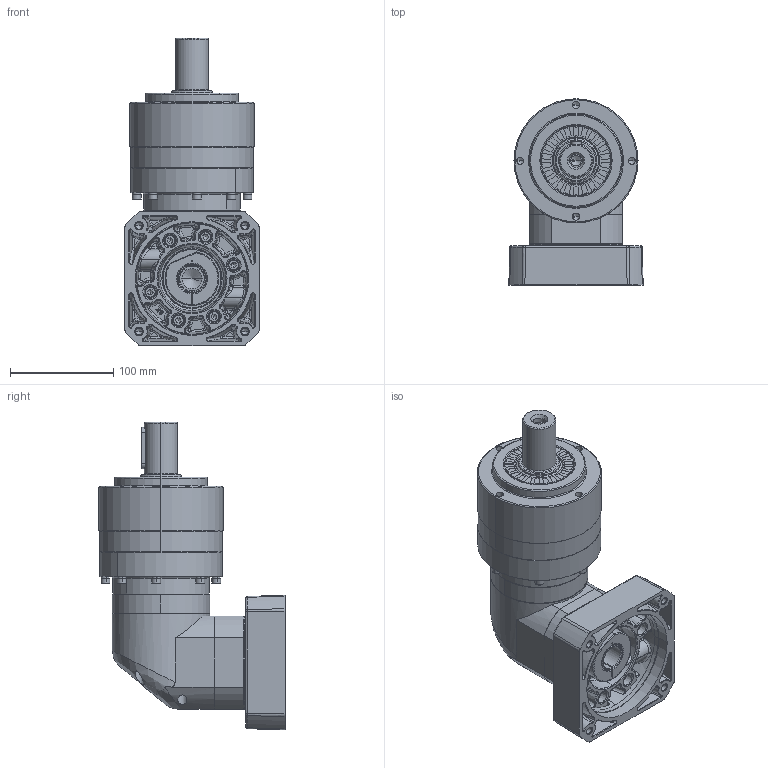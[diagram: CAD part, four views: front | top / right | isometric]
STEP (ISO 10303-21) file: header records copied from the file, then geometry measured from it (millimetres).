
FILE_DESCRIPTION (( 'STEP AP214' ), '1' );
FILE_NAME ('VRL120-L2-S2-P1 24-110-145-M8-59.STEP', '2025-02-14T08:13:38', ( '微软用户' ), ( '微软中国' ), 'SwSTEP 2.0', 'SolidWorks 2021', '' );
FILE_SCHEMA (( 'AUTOMOTIVE_DESIGN' ));
Length unit declared in the file: millimetre
Products named in the file (15): 输入法兰PAB090M1-110-145-M8; 输入轴 PAR090M1-24; 一级内齿圈壳体VRT090D; M5-12樓粟菜; 输入端壳体PAR090M1; 输入轴锁紧环 28-52-14-加螺栓; M6-14; 怀堤傷褲极EVT090D; 输出内齿圈壳体VRL120D; 楊擘耜謂蹟佪M10; 一级直角箱体EVT090D-加螺栓; 怀堤俴陎殤PAB115D_1; す瑩10X40_1; VRL120-L2-S2-P1 24-110-145-M8-59; 蚐猾40x68x8_1
Assembly tree (26 placements, depth 2):
  VRL120-L2-S2-P1 24-110-145-M8-59
    一级内齿圈壳体VRT090D
    M5-12樓粟菜  x8
    怀堤傷褲极EVT090D
    楊擘耜謂蹟佪M10
    输入端壳体PAR090M1
    M6-14  x6
    输入法兰PAB090M1-110-145-M8
    一级直角箱体EVT090D-加螺栓
    す瑩10X40_1
    蚐猾40x68x8_1
    怀堤俴陎殤PAB115D_1
    输入轴 PAR090M1-24
    输入轴锁紧环 28-52-14-加螺栓
    输出内齿圈壳体VRL120D
Bounding box: 130 x 180 x 297.5 mm (x, y, z)
Volume: 1909813.9 mm3; surface area: 335707.1 mm2
Topology: 18 solids, 46 shells, 1638 faces, 3961 edges, 2446 vertices
Faces by surface type: plane 486, cylinder 413, bspline 308, cone 268, torus 129, sphere 34
Entity records: 64230 total; most frequent: CARTESIAN_POINT 34782, ORIENTED_EDGE 6342, DIRECTION 5376, EDGE_CURVE 3195, AXIS2_PLACEMENT_3D 2175, VERTEX_POINT 2002, EDGE_LOOP 1501, FACE_OUTER_BOUND 1347
